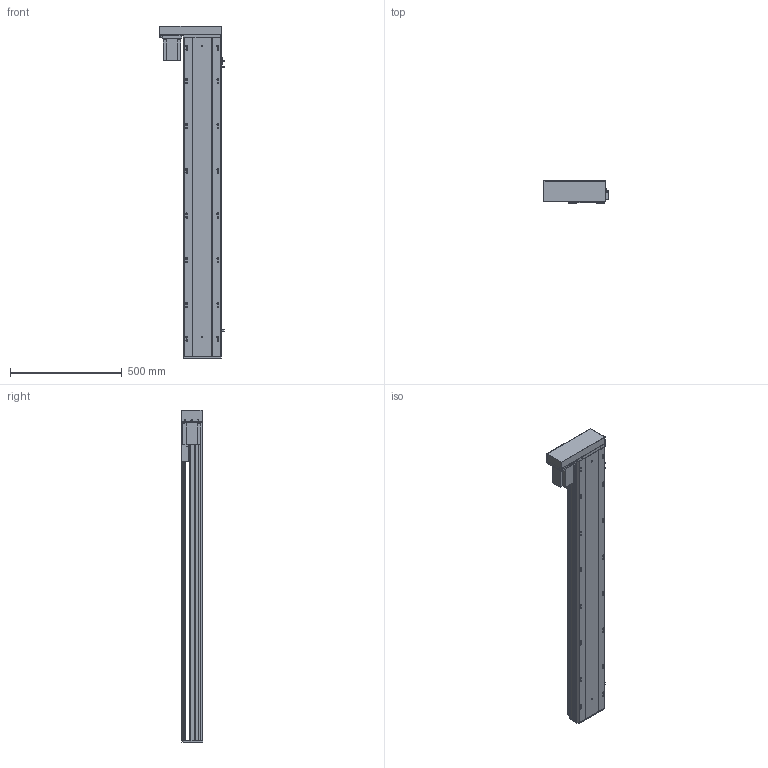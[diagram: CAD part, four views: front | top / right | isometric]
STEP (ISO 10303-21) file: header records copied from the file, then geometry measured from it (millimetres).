
FILE_DESCRIPTION (( 'STEP AP203' ), '1' );
FILE_NAME ('Y170-D10-S1200-BL-P750W.STEP', '2020-01-19T23:12:49', ( '微软用户' ), ( '微软中国' ), 'SwSTEP 2.0', 'SolidWorks 2017', '' );
FILE_SCHEMA (( 'CONFIG_CONTROL_DESIGN' ));
Length unit declared in the file: millimetre
Products named in the file (12): Y170-BL-P750W楊擘啣; 侂狟750W; EGH20賑輸_蕼偞; Y雄赽釱-耜蚾; Y-BL.BR-俋欶; Y170耜裔--準---; Y170-陔遴奻裔-BR; YD-Y100-135-新外置传感挡片(通用）; Y--BL蟀諉啣-陔遴-; Y100-135俋离換覜ん; Y170-D10-S1200-BL-P750W; 170--掛极-BR
Assembly tree (14 placements, depth 2):
  Y170-D10-S1200-BL-P750W
    Y170耜裔--準---
    YD-Y100-135-新外置传感挡片(通用）
    Y100-135俋离換覜ん  x3
    170--掛极-BR
    Y170-BL-P750W楊擘啣
    侂狟750W
    EGH20賑輸_蕼偞  x2
    Y雄赽釱-耜蚾
    Y-BL.BR-俋欶
    Y170-陔遴奻裔-BR
    Y--BL蟀諉啣-陔遴-
Bounding box: 289 x 97 x 1483.5 mm (x, y, z)
Volume: 6826420.1 mm3; surface area: 2387229.5 mm2
Topology: 14 solids, 14 shells, 945 faces, 2690 edges, 1776 vertices
Faces by surface type: cylinder 486, plane 443, cone 16
Entity records: 30250 total; most frequent: CARTESIAN_POINT 5454, DIRECTION 4988, ORIENTED_EDGE 4876, EDGE_CURVE 2438, AXIS2_PLACEMENT_3D 1778, VERTEX_POINT 1620, LINE 1432, VECTOR 1432
